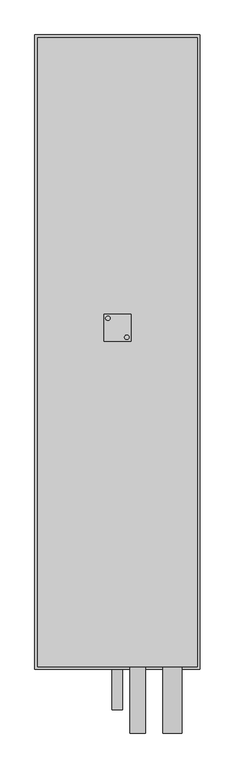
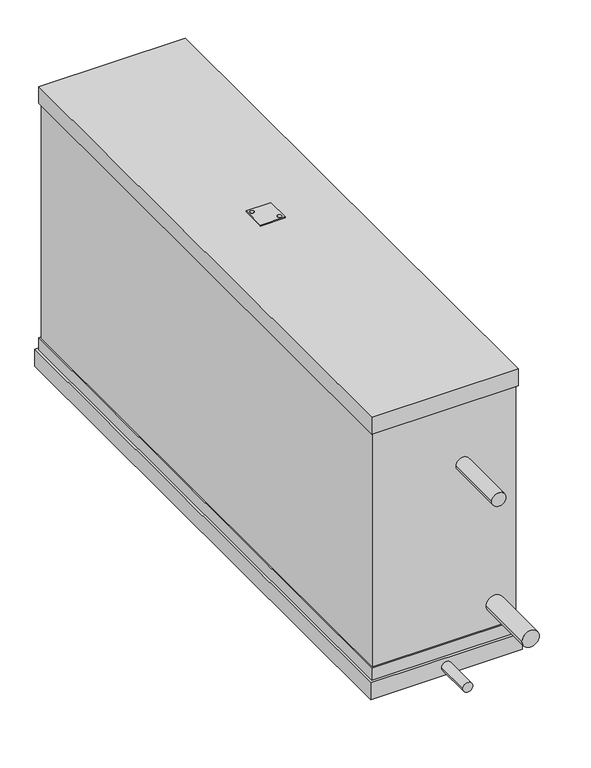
"""IFC4 building model written with IfcOpenShell, lengths in millimetres: proxy geometry, KORF_Воздухоохладитель_Фреоновый_FLO_Левый : FLO 100-50."""

from ifc_helpers import new_model, si_unit, point, frame, frame_2d, origin, place, context, project, spatial, polyline, circle_curve, trimmed, segment, composite_curve, outline, extrude, faceted_brep, source, transform, mapped, element, save


def mechanical_equipment_687dd05c(model_context):
    return source(origin(), model_context, "Body", "SolidModel", [
        extrude(outline(composite_curve([segment(trimmed(circle_curve(frame_2d((170.5727066, -17.5745746)), 4.0), [point((174.5727066, -17.5745746))], [point((166.5727066, -17.5745746))], False, "CARTESIAN"), True, "CONTINUOUS"), segment(trimmed(circle_curve(frame_2d((170.5727066, -17.5745746)), 4.0), [point((166.5727066, -17.5745746))], [point((174.5727066, -17.5745746))], False, "CARTESIAN"), True, "CONTINUOUS")], self_intersect=False)), frame((0.0, 0.0, 286.0), z_axis=(0.0, 0.0, 1.0), x_axis=(1.0, 0.0, 0.0)), (0.0, 0.0, 1.0), 2.0),
        extrude(outline(composite_curve([segment(trimmed(circle_curve(frame_2d((135.4272934, 17.5745746)), 4.0), [point((131.4272934, 17.5745746))], [point((139.4272934, 17.5745746))], False, "CARTESIAN"), True, "CONTINUOUS"), segment(trimmed(circle_curve(frame_2d((135.4272934, 17.5745746)), 4.0), [point((139.4272934, 17.5745746))], [point((131.4272934, 17.5745746))], False, "CARTESIAN"), True, "CONTINUOUS")], self_intersect=False)), frame((0.0, 0.0, 286.0), z_axis=(0.0, 0.0, 1.0), x_axis=(1.0, 0.0, 0.0)), (0.0, 0.0, 1.0), 2.0),
        extrude(outline(polyline([(128.0, -25.0), (128.0, 25.0), (178.0, 25.0), (178.0, -25.0), (128.0, -25.0)]), holes=[composite_curve([segment(trimmed(circle_curve(frame_2d((170.5727066, -17.5745746)), 4.0), [point((174.5727066, -17.5745746))], [point((166.5727066, -17.5745746))], True, "CARTESIAN"), True, "CONTINUOUS"), segment(trimmed(circle_curve(frame_2d((170.5727066, -17.5745746)), 4.0), [point((166.5727066, -17.5745746))], [point((174.5727066, -17.5745746))], True, "CARTESIAN"), True, "CONTINUOUS")], self_intersect=False), composite_curve([segment(trimmed(circle_curve(frame_2d((135.4272934, 17.5745746)), 4.0), [point((131.4272934, 17.5745746))], [point((139.4272934, 17.5745746))], True, "CARTESIAN"), True, "CONTINUOUS"), segment(trimmed(circle_curve(frame_2d((135.4272934, 17.5745746)), 4.0), [point((139.4272934, 17.5745746))], [point((131.4272934, 17.5745746))], True, "CARTESIAN"), True, "CONTINUOUS")], self_intersect=False)]), frame((0.0, 0.0, 286.0), z_axis=(0.0, 0.0, 1.0), x_axis=(1.0, 0.0, 0.0)), (0.0, 0.0, 1.0), 2.0),
        faceted_brep([(306.0, -632.0, -276.0), (306.0, -632.0, -312.0), (306.0, 542.0, -312.0), (306.0, 542.0, -276.0), (0.0, -632.0, -276.0), (0.0, 542.0, -276.0), (0.0, 542.0, -312.0), (0.0, -632.0, -312.0), (301.0, 537.0, -276.0), (301.0, -627.0, -276.0), (5.0, -627.0, -276.0), (5.0, 537.0, -276.0), (298.0, -624.0, 250.0), (298.0, -624.0, -250.0), (298.0, -500.0, -250.0), (298.0, 500.0, -250.0), (298.0, 534.0, -250.0), (298.0, 534.0, 250.0), (298.0, 500.0, 250.0), (298.0, -500.0, 250.0), (8.0, 534.0, 250.0), (8.0, 534.0, -250.0), (8.0, 500.0, -250.0), (8.0, -500.0, -250.0), (8.0, -624.0, -250.0), (8.0, -624.0, 250.0), (8.0, -500.0, 250.0), (8.0, 500.0, 250.0), (301.0, -627.0, 250.0), (301.0, 537.0, 250.0), (301.0, 537.0, 286.0), (301.0, -627.0, 286.0), (301.0, -627.0, -250.0), (301.0, 537.0, -250.0), (5.0, -627.0, 250.0), (5.0, -627.0, 286.0), (5.0, 537.0, 286.0), (5.0, 537.0, 250.0), (5.0, -627.0, -250.0), (5.0, 537.0, -250.0)], [[[0, 1, 2, 3]], [[4, 5, 6, 7]], [[1, 0, 4, 7]], [[2, 1, 7, 6]], [[3, 2, 6, 5]], [[0, 3, 5, 4], [8, 9, 10, 11]], [[12, 13, 14, 15, 16, 17, 18, 19]], [[20, 21, 22, 23, 24, 25, 26, 27]], [[13, 12, 25, 24]], [[17, 16, 21, 20]], [[28, 29, 30, 31]], [[32, 9, 8, 33]], [[34, 35, 36, 37]], [[38, 39, 11, 10]], [[29, 28, 34, 37], [12, 19, 18, 17, 20, 27, 26, 25]], [[30, 29, 37, 36]], [[31, 30, 36, 35]], [[28, 31, 35, 34]], [[9, 32, 38, 10]], [[33, 8, 11, 39]], [[32, 33, 39, 38], [14, 13, 24, 23, 22, 21, 16, 15]]]),
        extrude(outline(composite_curve([segment(trimmed(circle_curve(frame_2d((-200.0, 255.0)), 17.46), [point((-200.0, 237.54))], [point((-200.0, 272.46))], False, "CARTESIAN"), True, "CONTINUOUS"), segment(trimmed(circle_curve(frame_2d((-200.0, 255.0)), 17.46), [point((-200.0, 272.46))], [point((-200.0, 237.54))], False, "CARTESIAN"), True, "CONTINUOUS")], self_intersect=False)), frame((0.0, -750.0, 0.0), z_axis=(0.0, 1.0, 0.0), x_axis=(0.0, 0.0, 1.0)), (0.0, 0.0, 1.0), 126.0),
        extrude(outline(composite_curve([segment(trimmed(circle_curve(frame_2d((120.0, 191.0)), 14.285), [point((120.0, 176.715))], [point((120.0, 205.285))], False, "CARTESIAN"), True, "CONTINUOUS"), segment(trimmed(circle_curve(frame_2d((120.0, 191.0)), 14.285), [point((120.0, 205.285))], [point((120.0, 176.715))], False, "CARTESIAN"), True, "CONTINUOUS")], self_intersect=False)), frame((0.0, -750.0, 0.0), z_axis=(0.0, 1.0, 0.0), x_axis=(0.0, 0.0, 1.0)), (0.0, 0.0, 1.0), 126.0),
        extrude(outline(composite_curve([segment(trimmed(circle_curve(frame_2d((-294.0, 153.0)), 10.0), [point((-294.0, 143.0))], [point((-294.0, 163.0))], False, "CARTESIAN"), True, "CONTINUOUS"), segment(trimmed(circle_curve(frame_2d((-294.0, 153.0)), 10.0), [point((-294.0, 163.0))], [point((-294.0, 143.0))], False, "CARTESIAN"), True, "CONTINUOUS")], self_intersect=False)), frame((0.0, -707.0, 0.0), z_axis=(0.0, 1.0, 0.0), x_axis=(0.0, 0.0, 1.0)), (0.0, 0.0, 1.0), 75.0),
    ])


if __name__ == "__main__":
    model = new_model("IFC4")
    model_context = context("Model", 3, world=origin())
    ifc_project = project(units=[si_unit("LENGTHUNIT", "METRE", prefix="MILLI")], contexts=[model_context])
    site = spatial("IfcSite", under=ifc_project)
    building = spatial("IfcBuilding", under=site)
    placement = place(None, origin())
    mechanical_equipment_shape = mechanical_equipment_687dd05c(model_context)
    element("IfcBuildingElementProxy", 1, Name="KORF_Воздухоохладитель_Фреоновый_FLO_Левый : FLO 100-50", ObjectType="KORF_Воздухоохладитель_Фреоновый_FLO_Левый : FLO 100-50", at=placement, inside=building, context=model_context, shape_type="MappedRepresentation", body=[
        mapped(mechanical_equipment_shape, transform((0.0, 0.0, 0.0), x_axis=(1.0, 0.0, 0.0), y_axis=(0.0, 1.0, 0.0), z_axis=(0.0, 0.0, 1.0))),
    ])
    save(model, "model.ifc")
